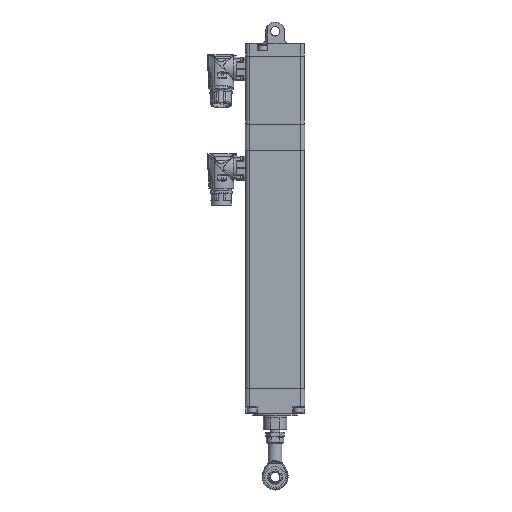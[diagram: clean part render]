
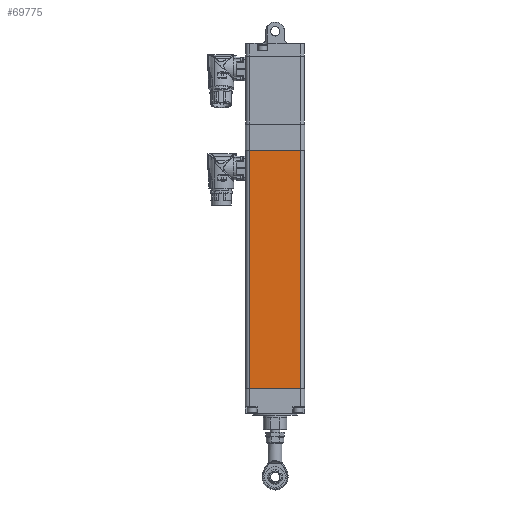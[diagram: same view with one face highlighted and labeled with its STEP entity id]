
A CAD part, left-side view. The second image highlights one B-rep face of the part: STEP entity #69775.
In plain terms, the highlighted planar face has unit normal (-1, 0, 0).
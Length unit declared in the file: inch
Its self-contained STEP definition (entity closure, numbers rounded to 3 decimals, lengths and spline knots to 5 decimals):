
#2887 = EDGE_CURVE ( 'NONE', #47193, #30144, #10733, .T. ) ;
#5095 = ORIENTED_EDGE ( 'NONE', *, *, #20568, .T. ) ;
#5610 = AXIS2_PLACEMENT_3D ( 'NONE', #89925, #62624, #26571 ) ;
#5735 = FACE_OUTER_BOUND ( 'NONE', #34463, .T. ) ;
#9321 = ORIENTED_EDGE ( 'NONE', *, *, #2887, .F. ) ;
#10733 = LINE ( 'NONE', #19808, #37431 ) ;
#17414 = ORIENTED_EDGE ( 'NONE', *, *, #61131, .T. ) ;
#19749 = VECTOR ( 'NONE', #68066, 39.37008 ) ;
#19808 = CARTESIAN_POINT ( 'NONE',  ( -1.23, 1.08, 0. ) ) ;
#20568 = EDGE_CURVE ( 'NONE', #78370, #30144, #46798, .T. ) ;
#26571 = DIRECTION ( 'NONE',  ( 0., 0., 1. ) ) ;
#29803 = CARTESIAN_POINT ( 'NONE',  ( -1.23, 1.08, 0. ) ) ;
#30144 = VERTEX_POINT ( 'NONE', #39502 ) ;
#33379 = CARTESIAN_POINT ( 'NONE',  ( -1.23, 1.25463, -10.039 ) ) ;
#33634 = CARTESIAN_POINT ( 'NONE',  ( -1.23, 1.08, -10.039 ) ) ;
#34463 = EDGE_LOOP ( 'NONE', ( #69277, #17414, #5095, #9321 ) ) ;
#37431 = VECTOR ( 'NONE', #54978, 39.37008 ) ;
#38499 = VECTOR ( 'NONE', #61129, 39.37008 ) ;
#39502 = CARTESIAN_POINT ( 'NONE',  ( -1.23, -1.08, 0. ) ) ;
#46798 = LINE ( 'NONE', #48141, #38499 ) ;
#47193 = VERTEX_POINT ( 'NONE', #29803 ) ;
#48141 = CARTESIAN_POINT ( 'NONE',  ( -1.23, -1.08, -0.5 ) ) ;
#48556 = EDGE_CURVE ( 'NONE', #73486, #47193, #84396, .T. ) ;
#54978 = DIRECTION ( 'NONE',  ( 0., -1., 0. ) ) ;
#61129 = DIRECTION ( 'NONE',  ( 0., 0., 1. ) ) ;
#61131 = EDGE_CURVE ( 'NONE', #73486, #78370, #74986, .T. ) ;
#61714 = PLANE ( 'NONE',  #5610 ) ;
#62624 = DIRECTION ( 'NONE',  ( -1., 0., 0. ) ) ;
#68066 = DIRECTION ( 'NONE',  ( 0., -1., 0. ) ) ;
#69277 = ORIENTED_EDGE ( 'NONE', *, *, #48556, .F. ) ;
#69775 = ADVANCED_FACE ( 'NONE', ( #5735 ), #61714, .T. ) ;
#73486 = VERTEX_POINT ( 'NONE', #33634 ) ;
#74986 = LINE ( 'NONE', #33379, #19749 ) ;
#75677 = CARTESIAN_POINT ( 'NONE',  ( -1.23, 1.08, -0.5 ) ) ;
#77021 = DIRECTION ( 'NONE',  ( 0., 0., 1. ) ) ;
#78370 = VERTEX_POINT ( 'NONE', #78502 ) ;
#78502 = CARTESIAN_POINT ( 'NONE',  ( -1.23, -1.08, -10.039 ) ) ;
#82692 = VECTOR ( 'NONE', #77021, 39.37008 ) ;
#84396 = LINE ( 'NONE', #75677, #82692 ) ;
#89925 = CARTESIAN_POINT ( 'NONE',  ( -1.23, 1.08, -0.5 ) ) ;
